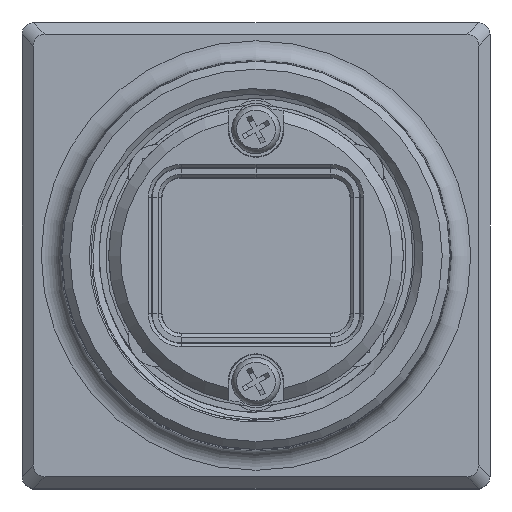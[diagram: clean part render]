
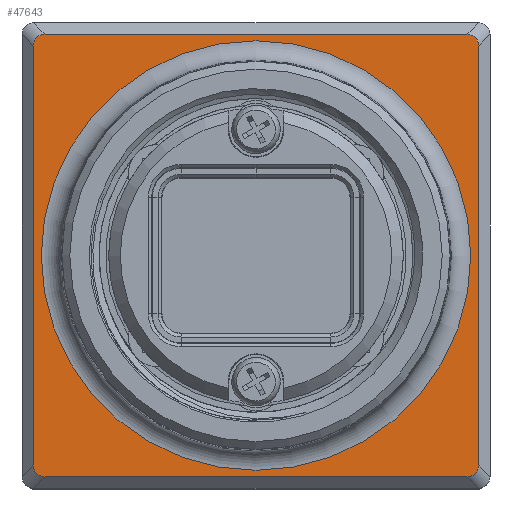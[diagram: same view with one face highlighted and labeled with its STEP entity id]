
A CAD part, top view. The second image highlights one B-rep face of the part: STEP entity #47643.
In plain terms, the highlighted planar face has unit normal (0, 0, 1).
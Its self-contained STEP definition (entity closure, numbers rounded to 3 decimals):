
#3755 = VECTOR ( 'NONE', #32664, 1000. ) ;
#4453 = EDGE_CURVE ( 'NONE', #51367, #11708, #58464, .T. ) ;
#4594 = VERTEX_POINT ( 'NONE', #120925 ) ;
#5501 = FACE_OUTER_BOUND ( 'NONE', #21686, .T. ) ;
#8461 = EDGE_CURVE ( 'NONE', #43587, #51367, #70038, .T. ) ;
#9067 = EDGE_CURVE ( 'NONE', #54474, #54474, #18261, .T. ) ;
#9121 = VECTOR ( 'NONE', #85117, 1000. ) ;
#11708 = VERTEX_POINT ( 'NONE', #80397 ) ;
#12379 = ORIENTED_EDGE ( 'NONE', *, *, #120758, .T. ) ;
#13218 = CARTESIAN_POINT ( 'NONE',  ( -11.475, 11.178, 8. ) ) ;
#15851 = ORIENTED_EDGE ( 'NONE', *, *, #59002, .T. ) ;
#16632 = ORIENTED_EDGE ( 'NONE', *, *, #8461, .T. ) ;
#18201 = CARTESIAN_POINT ( 'NONE',  ( 11.475, -10.794, 8. ) ) ;
#18261 = CIRCLE ( 'NONE', #31027, 11.073 ) ;
#21686 = EDGE_LOOP ( 'NONE', ( #121204, #16632, #72655, #89813, #12379, #15851, #108044, #67432 ) ) ;
#22188 = VERTEX_POINT ( 'NONE', #70368 ) ;
#23665 = VERTEX_POINT ( 'NONE', #54475 ) ;
#23783 = CARTESIAN_POINT ( 'NONE',  ( -11.255, 11.4, 8. ) ) ;
#26672 = EDGE_CURVE ( 'NONE', #87417, #4594, #106593, .T. ) ;
#29913 = DIRECTION ( 'NONE',  ( 0., -1., 0. ) ) ;
#31027 = AXIS2_PLACEMENT_3D ( 'NONE', #45257, #74082, #85514 ) ;
#32664 = DIRECTION ( 'NONE',  ( 0., 1., 0. ) ) ;
#34390 = CARTESIAN_POINT ( 'NONE',  ( 11.475, -11.178, 8. ) ) ;
#37707 = VECTOR ( 'NONE', #29913, 1000. ) ;
#37908 = EDGE_CURVE ( 'NONE', #4594, #43587, #116900, .T. ) ;
#43587 = VERTEX_POINT ( 'NONE', #92454 ) ;
#44143 = DIRECTION ( 'NONE',  ( -1., 0., 0. ) ) ;
#44152 = DIRECTION ( 'NONE',  ( -1., 0., 0. ) ) ;
#45257 = CARTESIAN_POINT ( 'NONE',  ( 0., 0., 8. ) ) ;
#46802 = LINE ( 'NONE', #118204, #37707 ) ;
#47643 = ADVANCED_FACE ( 'NONE', ( #5501, #50962 ), #102668, .F. ) ;
#50418 = VERTEX_POINT ( 'NONE', #57855 ) ;
#50962 = FACE_BOUND ( 'NONE', #88056, .T. ) ;
#51367 = VERTEX_POINT ( 'NONE', #18201 ) ;
#53837 = CARTESIAN_POINT ( 'NONE',  ( -11.475, -10.794, 8. ) ) ;
#54246 = CARTESIAN_POINT ( 'NONE',  ( -11.475, -11.178, 8. ) ) ;
#54474 = VERTEX_POINT ( 'NONE', #124494 ) ;
#54475 = CARTESIAN_POINT ( 'NONE',  ( -10.874, 11.4, 8. ) ) ;
#54672 = CARTESIAN_POINT ( 'NONE',  ( 0., 0., 8. ) ) ;
#57855 = CARTESIAN_POINT ( 'NONE',  ( -11.475, 10.794, 8. ) ) ;
#58464 = LINE ( 'NONE', #70375, #3755 ) ;
#58508 = CARTESIAN_POINT ( 'NONE',  ( 10.874, 11.4, 8. ) ) ;
#59002 = EDGE_CURVE ( 'NONE', #23665, #50418, #90945, .T. ) ;
#61910 = CARTESIAN_POINT ( 'NONE',  ( -11.475, 10.794, 8. ) ) ;
#66609 = CARTESIAN_POINT ( 'NONE',  ( -11.475, -10.794, 8. ) ) ;
#66759 = EDGE_CURVE ( 'NONE', #50418, #87417, #46802, .T. ) ;
#67432 = ORIENTED_EDGE ( 'NONE', *, *, #26672, .T. ) ;
#67827 = CARTESIAN_POINT ( 'NONE',  ( 11.475, 10.794, 8. ) ) ;
#68239 = CARTESIAN_POINT ( 'NONE',  ( 11.255, 11.4, 8. ) ) ;
#70038 =( BOUNDED_CURVE ( )  B_SPLINE_CURVE ( 3, ( #101009, #71702, #34390, #81500 ),
 .UNSPECIFIED., .F., .F. ) 
 B_SPLINE_CURVE_WITH_KNOTS ( ( 4, 4 ),
 ( 5.765, 6.817 ),
 .UNSPECIFIED. ) 
 CURVE ( )  GEOMETRIC_REPRESENTATION_ITEM ( )  RATIONAL_B_SPLINE_CURVE ( ( 1., 0.91, 0.91, 1. ) ) 
 REPRESENTATION_ITEM ( '' )  );
#70368 = CARTESIAN_POINT ( 'NONE',  ( 10.874, 11.4, 8. ) ) ;
#70375 = CARTESIAN_POINT ( 'NONE',  ( 11.475, 0., 8. ) ) ;
#71702 = CARTESIAN_POINT ( 'NONE',  ( 11.255, -11.4, 8. ) ) ;
#72655 = ORIENTED_EDGE ( 'NONE', *, *, #4453, .T. ) ;
#72947 = VECTOR ( 'NONE', #44152, 1000. ) ;
#73924 = AXIS2_PLACEMENT_3D ( 'NONE', #54672, #122647, #44143 ) ;
#74082 = DIRECTION ( 'NONE',  ( 0., 0., -1. ) ) ;
#76635 = ORIENTED_EDGE ( 'NONE', *, *, #9067, .T. ) ;
#76833 =( BOUNDED_CURVE ( )  B_SPLINE_CURVE ( 3, ( #67827, #108208, #68239, #58508 ),
 .UNSPECIFIED., .F., .F. ) 
 B_SPLINE_CURVE_WITH_KNOTS ( ( 4, 4 ),
 ( 5.749, 6.802 ),
 .UNSPECIFIED. ) 
 CURVE ( )  GEOMETRIC_REPRESENTATION_ITEM ( )  RATIONAL_B_SPLINE_CURVE ( ( 1., 0.91, 0.91, 1. ) ) 
 REPRESENTATION_ITEM ( '' )  );
#79099 = LINE ( 'NONE', #102679, #72947 ) ;
#80397 = CARTESIAN_POINT ( 'NONE',  ( 11.475, 10.794, 8. ) ) ;
#81500 = CARTESIAN_POINT ( 'NONE',  ( 11.475, -10.794, 8. ) ) ;
#83046 = CARTESIAN_POINT ( 'NONE',  ( 0., -11.4, 8. ) ) ;
#83580 = CARTESIAN_POINT ( 'NONE',  ( -10.874, -11.4, 8. ) ) ;
#84438 = CARTESIAN_POINT ( 'NONE',  ( -10.874, 11.4, 8. ) ) ;
#85117 = DIRECTION ( 'NONE',  ( 1., 0., 0. ) ) ;
#85514 = DIRECTION ( 'NONE',  ( -1., 0., 0. ) ) ;
#87417 = VERTEX_POINT ( 'NONE', #66609 ) ;
#88056 = EDGE_LOOP ( 'NONE', ( #76635 ) ) ;
#89813 = ORIENTED_EDGE ( 'NONE', *, *, #99571, .T. ) ;
#90945 =( BOUNDED_CURVE ( )  B_SPLINE_CURVE ( 3, ( #84438, #23783, #13218, #61910 ),
 .UNSPECIFIED., .F., .F. ) 
 B_SPLINE_CURVE_WITH_KNOTS ( ( 4, 4 ),
 ( 2.623, 3.675 ),
 .UNSPECIFIED. ) 
 CURVE ( )  GEOMETRIC_REPRESENTATION_ITEM ( )  RATIONAL_B_SPLINE_CURVE ( ( 1., 0.91, 0.91, 1. ) ) 
 REPRESENTATION_ITEM ( '' )  );
#92454 = CARTESIAN_POINT ( 'NONE',  ( 10.874, -11.4, 8. ) ) ;
#99571 = EDGE_CURVE ( 'NONE', #11708, #22188, #76833, .T. ) ;
#101009 = CARTESIAN_POINT ( 'NONE',  ( 10.874, -11.4, 8. ) ) ;
#102668 = PLANE ( 'NONE',  #73924 ) ;
#102679 = CARTESIAN_POINT ( 'NONE',  ( 0., 11.4, 8. ) ) ;
#106593 =( BOUNDED_CURVE ( )  B_SPLINE_CURVE ( 3, ( #53837, #54246, #112051, #83580 ),
 .UNSPECIFIED., .F., .T. ) 
 B_SPLINE_CURVE_WITH_KNOTS ( ( 4, 4 ),
 ( 2.608, 3.66 ),
 .UNSPECIFIED. ) 
 CURVE ( )  GEOMETRIC_REPRESENTATION_ITEM ( )  RATIONAL_B_SPLINE_CURVE ( ( 1., 0.91, 0.91, 1. ) ) 
 REPRESENTATION_ITEM ( '' )  );
#108044 = ORIENTED_EDGE ( 'NONE', *, *, #66759, .T. ) ;
#108208 = CARTESIAN_POINT ( 'NONE',  ( 11.475, 11.178, 8. ) ) ;
#112051 = CARTESIAN_POINT ( 'NONE',  ( -11.255, -11.4, 8. ) ) ;
#116900 = LINE ( 'NONE', #83046, #9121 ) ;
#118204 = CARTESIAN_POINT ( 'NONE',  ( -11.475, 0., 8. ) ) ;
#120758 = EDGE_CURVE ( 'NONE', #22188, #23665, #79099, .T. ) ;
#120925 = CARTESIAN_POINT ( 'NONE',  ( -10.874, -11.4, 8. ) ) ;
#121204 = ORIENTED_EDGE ( 'NONE', *, *, #37908, .T. ) ;
#122647 = DIRECTION ( 'NONE',  ( 0., 0., -1. ) ) ;
#124494 = CARTESIAN_POINT ( 'NONE',  ( -11.073, 0., 8. ) ) ;
